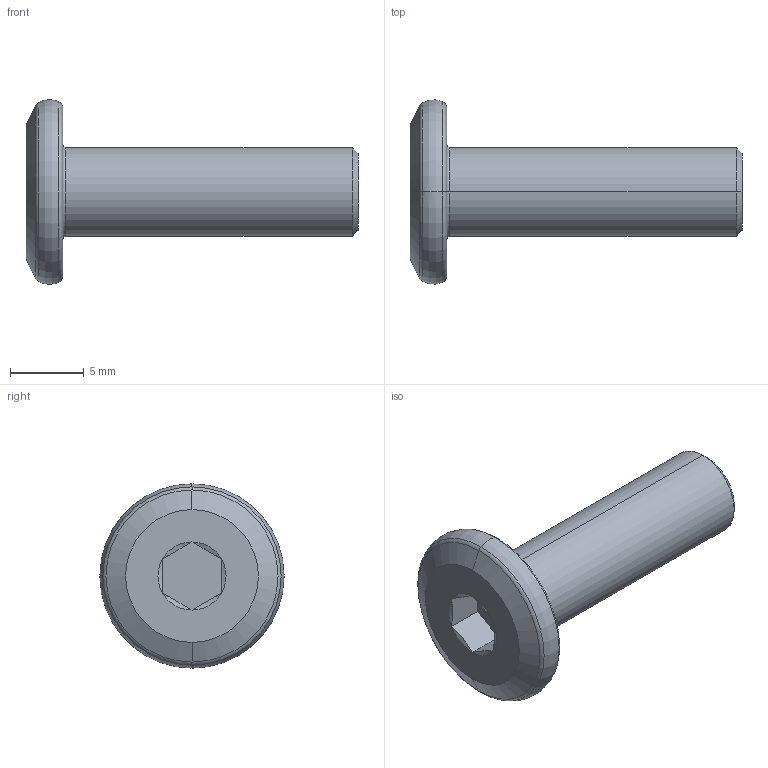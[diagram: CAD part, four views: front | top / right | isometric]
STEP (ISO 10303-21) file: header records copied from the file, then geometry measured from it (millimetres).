
FILE_DESCRIPTION (( 'STEP AP203' ), '1' );
FILE_NAME ('LGD-304D-M6x20.STEP', '2026-08-13T07:53:31', ( '' ), ( '' ), 'SwSTEP 2.0', 'SolidWorks 2020', '' );
FILE_SCHEMA (( 'CONFIG_CONTROL_DESIGN' ));
Length unit declared in the file: millimetre
Products named in the file (1): LGD-304D-M6x20
Bounding box: 22.5 x 12.49 x 12.49 mm (x, y, z)
Volume: 803.5 mm3; surface area: 704.5 mm2
Topology: 1 solids, 1 shells, 30 faces, 56 edges, 30 vertices
Faces by surface type: cone 10, plane 10, torus 8, cylinder 2
Entity records: 835 total; most frequent: CARTESIAN_POINT 151, DIRECTION 144, ORIENTED_EDGE 112, AXIS2_PLACEMENT_3D 63, EDGE_CURVE 56, CIRCLE 32, EDGE_LOOP 32, FACE_OUTER_BOUND 30
